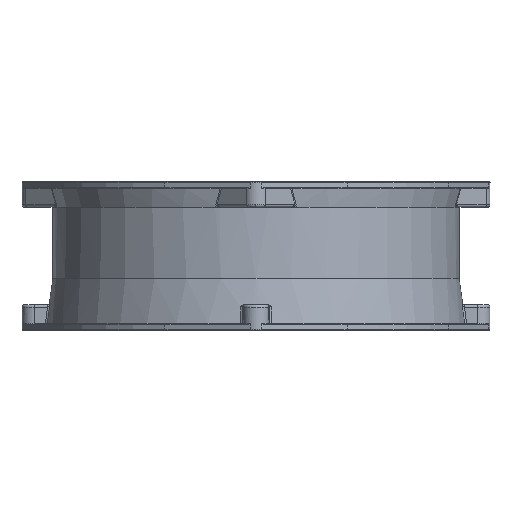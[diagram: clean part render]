
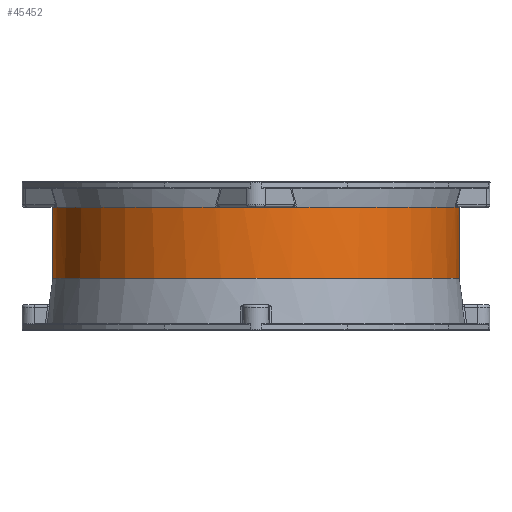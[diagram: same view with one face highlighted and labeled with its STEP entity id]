
A CAD part, front view. The second image highlights one B-rep face of the part: STEP entity #45452.
In plain terms, the highlighted cylindrical face has radius 95.5 mm (diameter 191 mm), a partial arc.
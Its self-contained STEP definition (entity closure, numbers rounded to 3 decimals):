
#1831 = CIRCLE ( 'NONE', #6937, 95.5 ) ;
#2302 = DIRECTION ( 'NONE',  ( 0., -1., 0. ) ) ;
#2603 = VERTEX_POINT ( 'NONE', #73608 ) ;
#2790 = EDGE_CURVE ( 'NONE', #30314, #66915, #1831, .T. ) ;
#2973 = DIRECTION ( 'NONE',  ( 0., 0., 1. ) ) ;
#3217 = DIRECTION ( 'NONE',  ( 0., 0., 1. ) ) ;
#3408 = CIRCLE ( 'NONE', #49184, 95.5 ) ;
#3873 = CIRCLE ( 'NONE', #26762, 95.5 ) ;
#4112 = VERTEX_POINT ( 'NONE', #55225 ) ;
#4547 = CARTESIAN_POINT ( 'NONE',  ( -95.5, 0., 24.5 ) ) ;
#5766 = DIRECTION ( 'NONE',  ( 0., 0., 1. ) ) ;
#5919 = ORIENTED_EDGE ( 'NONE', *, *, #6279, .F. ) ;
#6159 = AXIS2_PLACEMENT_3D ( 'NONE', #13253, #74260, #44336 ) ;
#6279 = EDGE_CURVE ( 'NONE', #18524, #7286, #61273, .T. ) ;
#6803 = EDGE_CURVE ( 'NONE', #60417, #34617, #3408, .T. ) ;
#6937 = AXIS2_PLACEMENT_3D ( 'NONE', #23269, #78704, #53967 ) ;
#7160 = DIRECTION ( 'NONE',  ( 0., -1., 0. ) ) ;
#7286 = VERTEX_POINT ( 'NONE', #57128 ) ;
#7839 = CARTESIAN_POINT ( 'NONE',  ( -17.118, -93.953, 58. ) ) ;
#8348 = DIRECTION ( 'NONE',  ( 0., -1., 0. ) ) ;
#9268 = VERTEX_POINT ( 'NONE', #39251 ) ;
#10236 = CIRCLE ( 'NONE', #21651, 95.5 ) ;
#13102 = EDGE_CURVE ( 'NONE', #66788, #67117, #42934, .T. ) ;
#13253 = CARTESIAN_POINT ( 'NONE',  ( 0., 0., 58. ) ) ;
#13353 = ORIENTED_EDGE ( 'NONE', *, *, #19470, .T. ) ;
#14608 = CARTESIAN_POINT ( 'NONE',  ( 93.953, -17.118, 58. ) ) ;
#14851 = EDGE_CURVE ( 'NONE', #4112, #61881, #28954, .T. ) ;
#15087 = AXIS2_PLACEMENT_3D ( 'NONE', #42695, #67024, #74605 ) ;
#16488 = CARTESIAN_POINT ( 'NONE',  ( -93.836, -17.75, 58. ) ) ;
#16859 = CARTESIAN_POINT ( 'NONE',  ( 0., 0., 58. ) ) ;
#16946 = ORIENTED_EDGE ( 'NONE', *, *, #6803, .F. ) ;
#16987 = CARTESIAN_POINT ( 'NONE',  ( -17.75, -93.836, 58. ) ) ;
#17031 = ORIENTED_EDGE ( 'NONE', *, *, #46280, .F. ) ;
#17298 = LINE ( 'NONE', #72750, #37445 ) ;
#18524 = VERTEX_POINT ( 'NONE', #14608 ) ;
#18573 = EDGE_CURVE ( 'NONE', #61881, #60417, #62366, .T. ) ;
#19470 = EDGE_CURVE ( 'NONE', #63107, #2603, #3873, .T. ) ;
#20279 = CARTESIAN_POINT ( 'NONE',  ( 0., 0., 58. ) ) ;
#20983 = VECTOR ( 'NONE', #60871, 1000. ) ;
#21628 = ORIENTED_EDGE ( 'NONE', *, *, #14851, .F. ) ;
#21651 = AXIS2_PLACEMENT_3D ( 'NONE', #20279, #50989, #8348 ) ;
#21657 = EDGE_CURVE ( 'NONE', #34617, #26600, #57233, .T. ) ;
#22037 = DIRECTION ( 'NONE',  ( 0., -1., 0. ) ) ;
#22409 = EDGE_CURVE ( 'NONE', #67117, #35431, #62411, .T. ) ;
#23269 = CARTESIAN_POINT ( 'NONE',  ( 0., 0., 58. ) ) ;
#23288 = DIRECTION ( 'NONE',  ( 1., 0., 0. ) ) ;
#23396 = LINE ( 'NONE', #53713, #20983 ) ;
#23806 = ORIENTED_EDGE ( 'NONE', *, *, #28700, .T. ) ;
#24144 = EDGE_CURVE ( 'NONE', #66915, #18524, #63770, .T. ) ;
#25021 = CARTESIAN_POINT ( 'NONE',  ( 19.195, -93.551, 58. ) ) ;
#25144 = ORIENTED_EDGE ( 'NONE', *, *, #13102, .F. ) ;
#25622 = AXIS2_PLACEMENT_3D ( 'NONE', #62987, #75747, #34522 ) ;
#26563 = AXIS2_PLACEMENT_3D ( 'NONE', #53606, #77954, #23288 ) ;
#26600 = VERTEX_POINT ( 'NONE', #54693 ) ;
#26762 = AXIS2_PLACEMENT_3D ( 'NONE', #28018, #52366, #59519 ) ;
#26871 = ORIENTED_EDGE ( 'NONE', *, *, #69752, .F. ) ;
#27017 = CARTESIAN_POINT ( 'NONE',  ( 0., 0., 58. ) ) ;
#28018 = CARTESIAN_POINT ( 'NONE',  ( 0., 0., 24.5 ) ) ;
#28700 = EDGE_CURVE ( 'NONE', #2603, #7286, #17298, .T. ) ;
#28954 = CIRCLE ( 'NONE', #6159, 95.5 ) ;
#29242 = AXIS2_PLACEMENT_3D ( 'NONE', #58040, #68860, #2302 ) ;
#30314 = VERTEX_POINT ( 'NONE', #51676 ) ;
#34315 = AXIS2_PLACEMENT_3D ( 'NONE', #27017, #71270, #58507 ) ;
#34522 = DIRECTION ( 'NONE',  ( 0., -1., 0. ) ) ;
#34617 = VERTEX_POINT ( 'NONE', #53934 ) ;
#34943 = EDGE_LOOP ( 'NONE', ( #76869, #13353, #23806, #5919, #46461, #73938, #63202, #17031, #45273, #40059, #25144, #26871, #51081, #16946, #69869, #21628 ) ) ;
#35173 = DIRECTION ( 'NONE',  ( 0., 0., 1. ) ) ;
#35232 = FACE_OUTER_BOUND ( 'NONE', #34943, .T. ) ;
#35431 = VERTEX_POINT ( 'NONE', #69874 ) ;
#37445 = VECTOR ( 'NONE', #5766, 1000. ) ;
#38015 = DIRECTION ( 'NONE',  ( 0., -1., 0. ) ) ;
#39251 = CARTESIAN_POINT ( 'NONE',  ( 17.75, -93.836, 58. ) ) ;
#39270 = CIRCLE ( 'NONE', #15087, 95.5 ) ;
#40059 = ORIENTED_EDGE ( 'NONE', *, *, #22409, .F. ) ;
#42695 = CARTESIAN_POINT ( 'NONE',  ( 0., 0., 58. ) ) ;
#42934 = CIRCLE ( 'NONE', #64624, 95.5 ) ;
#44198 = DIRECTION ( 'NONE',  ( 0., 0., 1. ) ) ;
#44336 = DIRECTION ( 'NONE',  ( 0., -1., 0. ) ) ;
#44403 = CIRCLE ( 'NONE', #59635, 95.5 ) ;
#44746 = EDGE_CURVE ( 'NONE', #66489, #30314, #39270, .T. ) ;
#45273 = ORIENTED_EDGE ( 'NONE', *, *, #63105, .F. ) ;
#45452 = ADVANCED_FACE ( 'NONE', ( #35232 ), #59581, .T. ) ;
#46280 = EDGE_CURVE ( 'NONE', #9268, #66489, #48253, .T. ) ;
#46461 = ORIENTED_EDGE ( 'NONE', *, *, #24144, .F. ) ;
#48253 = CIRCLE ( 'NONE', #50835, 95.5 ) ;
#48409 = AXIS2_PLACEMENT_3D ( 'NONE', #66444, #66832, #77237 ) ;
#49184 = AXIS2_PLACEMENT_3D ( 'NONE', #76153, #3217, #64177 ) ;
#49785 = CARTESIAN_POINT ( 'NONE',  ( 0., 0., 58. ) ) ;
#50386 = DIRECTION ( 'NONE',  ( 0., 0., 1. ) ) ;
#50835 = AXIS2_PLACEMENT_3D ( 'NONE', #57557, #2973, #22037 ) ;
#50989 = DIRECTION ( 'NONE',  ( 0., 0., 1. ) ) ;
#51081 = ORIENTED_EDGE ( 'NONE', *, *, #21657, .F. ) ;
#51676 = CARTESIAN_POINT ( 'NONE',  ( 93.551, -19.195, 58. ) ) ;
#52366 = DIRECTION ( 'NONE',  ( 0., 0., 1. ) ) ;
#53150 = DIRECTION ( 'NONE',  ( 0., -1., 0. ) ) ;
#53606 = CARTESIAN_POINT ( 'NONE',  ( 0., 0., 97.615 ) ) ;
#53713 = CARTESIAN_POINT ( 'NONE',  ( -95.5, 0., 97.615 ) ) ;
#53934 = CARTESIAN_POINT ( 'NONE',  ( -93.551, -19.195, 58. ) ) ;
#53967 = DIRECTION ( 'NONE',  ( 0., -1., 0. ) ) ;
#54693 = CARTESIAN_POINT ( 'NONE',  ( -19.195, -93.551, 58. ) ) ;
#55225 = CARTESIAN_POINT ( 'NONE',  ( -95.5, 0., 58. ) ) ;
#56802 = EDGE_CURVE ( 'NONE', #63107, #4112, #23396, .T. ) ;
#57128 = CARTESIAN_POINT ( 'NONE',  ( 95.5, 0., 58. ) ) ;
#57233 = CIRCLE ( 'NONE', #34315, 95.5 ) ;
#57557 = CARTESIAN_POINT ( 'NONE',  ( 0., 0., 58. ) ) ;
#58040 = CARTESIAN_POINT ( 'NONE',  ( 0., 0., 58. ) ) ;
#58507 = DIRECTION ( 'NONE',  ( 1., 0., 0. ) ) ;
#59519 = DIRECTION ( 'NONE',  ( 1., 0., 0. ) ) ;
#59581 = CYLINDRICAL_SURFACE ( 'NONE', #26563, 95.5 ) ;
#59635 = AXIS2_PLACEMENT_3D ( 'NONE', #16859, #35173, #53150 ) ;
#60417 = VERTEX_POINT ( 'NONE', #16488 ) ;
#60871 = DIRECTION ( 'NONE',  ( 0., 0., 1. ) ) ;
#61273 = CIRCLE ( 'NONE', #25622, 95.5 ) ;
#61881 = VERTEX_POINT ( 'NONE', #62913 ) ;
#62366 = CIRCLE ( 'NONE', #29242, 95.5 ) ;
#62411 = CIRCLE ( 'NONE', #48409, 95.5 ) ;
#62913 = CARTESIAN_POINT ( 'NONE',  ( -93.953, -17.118, 58. ) ) ;
#62987 = CARTESIAN_POINT ( 'NONE',  ( 0., 0., 58. ) ) ;
#63105 = EDGE_CURVE ( 'NONE', #35431, #9268, #44403, .T. ) ;
#63107 = VERTEX_POINT ( 'NONE', #4547 ) ;
#63202 = ORIENTED_EDGE ( 'NONE', *, *, #44746, .F. ) ;
#63770 = CIRCLE ( 'NONE', #66334, 95.5 ) ;
#64177 = DIRECTION ( 'NONE',  ( 0., -1., 0. ) ) ;
#64624 = AXIS2_PLACEMENT_3D ( 'NONE', #49785, #44198, #7160 ) ;
#66334 = AXIS2_PLACEMENT_3D ( 'NONE', #67954, #50386, #38015 ) ;
#66444 = CARTESIAN_POINT ( 'NONE',  ( 0., 0., 58. ) ) ;
#66489 = VERTEX_POINT ( 'NONE', #25021 ) ;
#66788 = VERTEX_POINT ( 'NONE', #16987 ) ;
#66832 = DIRECTION ( 'NONE',  ( 0., 0., 1. ) ) ;
#66915 = VERTEX_POINT ( 'NONE', #67230 ) ;
#67024 = DIRECTION ( 'NONE',  ( 0., 0., 1. ) ) ;
#67117 = VERTEX_POINT ( 'NONE', #7839 ) ;
#67230 = CARTESIAN_POINT ( 'NONE',  ( 93.836, -17.75, 58. ) ) ;
#67954 = CARTESIAN_POINT ( 'NONE',  ( 0., 0., 58. ) ) ;
#68860 = DIRECTION ( 'NONE',  ( 0., 0., 1. ) ) ;
#69752 = EDGE_CURVE ( 'NONE', #26600, #66788, #10236, .T. ) ;
#69869 = ORIENTED_EDGE ( 'NONE', *, *, #18573, .F. ) ;
#69874 = CARTESIAN_POINT ( 'NONE',  ( 17.118, -93.953, 58. ) ) ;
#71270 = DIRECTION ( 'NONE',  ( 0., 0., 1. ) ) ;
#72750 = CARTESIAN_POINT ( 'NONE',  ( 95.5, 0., 97.615 ) ) ;
#73608 = CARTESIAN_POINT ( 'NONE',  ( 95.5, 0., 24.5 ) ) ;
#73938 = ORIENTED_EDGE ( 'NONE', *, *, #2790, .F. ) ;
#74260 = DIRECTION ( 'NONE',  ( 0., 0., 1. ) ) ;
#74605 = DIRECTION ( 'NONE',  ( 1., 0., 0. ) ) ;
#75747 = DIRECTION ( 'NONE',  ( 0., 0., 1. ) ) ;
#76153 = CARTESIAN_POINT ( 'NONE',  ( 0., 0., 58. ) ) ;
#76869 = ORIENTED_EDGE ( 'NONE', *, *, #56802, .F. ) ;
#77237 = DIRECTION ( 'NONE',  ( 0., -1., 0. ) ) ;
#77954 = DIRECTION ( 'NONE',  ( 0., 0., 1. ) ) ;
#78704 = DIRECTION ( 'NONE',  ( 0., 0., 1. ) ) ;
